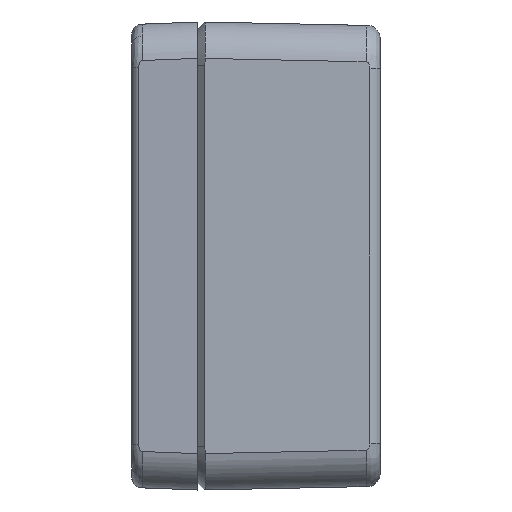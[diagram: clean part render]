
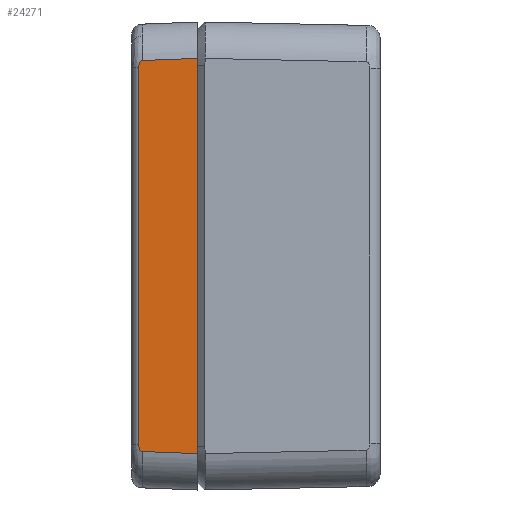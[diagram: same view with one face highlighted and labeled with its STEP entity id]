
A CAD part, left-side view. The second image highlights one B-rep face of the part: STEP entity #24271.
In plain terms, the highlighted planar face has unit normal (-0.999, 0.038, 0).
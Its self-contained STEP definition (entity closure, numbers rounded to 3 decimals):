
#96 = VERTEX_POINT ( 'NONE', #26281 ) ;
#109 = CARTESIAN_POINT ( 'NONE',  ( -48.7, 7.8, 26.599 ) ) ;
#260 = CARTESIAN_POINT ( 'NONE',  ( -48.709, 7.566, -26.735 ) ) ;
#409 = CARTESIAN_POINT ( 'NONE',  ( -48.7, 7.794, -26.606 ) ) ;
#445 = LINE ( 'NONE', #260, #10973 ) ;
#581 = CARTESIAN_POINT ( 'NONE',  ( -48.709, 7.566, -26.735 ) ) ;
#2452 = CARTESIAN_POINT ( 'NONE',  ( -49., 0., 0. ) ) ;
#2766 = CARTESIAN_POINT ( 'NONE',  ( -48.692, 8.023, -25.995 ) ) ;
#2795 = DIRECTION ( 'NONE',  ( -0.038, -0.999, -0.038 ) ) ;
#2811 = ORIENTED_EDGE ( 'NONE', *, *, #34739, .T. ) ;
#2982 = CARTESIAN_POINT ( 'NONE',  ( -48.692, 8.023, 0. ) ) ;
#2998 = CARTESIAN_POINT ( 'NONE',  ( -48.708, 7.609, 26.733 ) ) ;
#3068 = CARTESIAN_POINT ( 'NONE',  ( -49., 0., 27.026 ) ) ;
#3554 = ORIENTED_EDGE ( 'NONE', *, *, #26777, .F. ) ;
#4020 = ORIENTED_EDGE ( 'NONE', *, *, #25757, .F. ) ;
#4112 = VECTOR ( 'NONE', #4807, 1000. ) ;
#4242 = CARTESIAN_POINT ( 'NONE',  ( -48.863, 3.563, 26.889 ) ) ;
#4674 = EDGE_LOOP ( 'NONE', ( #26222, #13349, #34695, #3554, #2811, #4020 ) ) ;
#4745 = VECTOR ( 'NONE', #15235, 1000. ) ;
#4807 = DIRECTION ( 'NONE',  ( 0., 0., 1. ) ) ;
#5252 = VECTOR ( 'NONE', #13972, 1000. ) ;
#5263 = AXIS2_PLACEMENT_3D ( 'NONE', #33398, #17220, #8943 ) ;
#5292 = CARTESIAN_POINT ( 'NONE',  ( -48.696, 7.919, -26.389 ) ) ;
#5472 = CARTESIAN_POINT ( 'NONE',  ( -48.702, 7.758, -26.645 ) ) ;
#5528 = B_SPLINE_CURVE_WITH_KNOTS ( 'NONE', 3,
 ( #28183, #2998, #28017, #14524, #25493, #11299, #5704, #109, #30711, #33235, #24973, #28363, #25152, #19403, #22272, #8596, #8953, #30892 ),
 .UNSPECIFIED., .F., .F.,
 ( 4, 1, 1, 1, 2, 2, 1, 1, 1, 2, 2, 4 ),
 ( 0., 0.125, 0.188, 0.219, 0.234, 0.25, 0.375, 0.438, 0.469, 0.484, 0.5, 1. ),
 .UNSPECIFIED. ) ;
#5643 = CARTESIAN_POINT ( 'NONE',  ( -48.706, 7.65, -26.721 ) ) ;
#5704 = CARTESIAN_POINT ( 'NONE',  ( -48.701, 7.794, 26.606 ) ) ;
#7219 = VERTEX_POINT ( 'NONE', #15729 ) ;
#7665 = VERTEX_POINT ( 'NONE', #19268 ) ;
#8360 = CARTESIAN_POINT ( 'NONE',  ( -48.696, 7.902, -26.43 ) ) ;
#8596 = CARTESIAN_POINT ( 'NONE',  ( -48.693, 7.994, 26.181 ) ) ;
#8943 = DIRECTION ( 'NONE',  ( -0.038, -0.999, 0. ) ) ;
#8953 = CARTESIAN_POINT ( 'NONE',  ( -48.692, 8.023, 25.995 ) ) ;
#10746 = LINE ( 'NONE', #2452, #4112 ) ;
#10877 = CARTESIAN_POINT ( 'NONE',  ( -48.7, 7.8, -26.599 ) ) ;
#10973 = VECTOR ( 'NONE', #2795, 1000. ) ;
#11299 = CARTESIAN_POINT ( 'NONE',  ( -48.701, 7.785, 26.616 ) ) ;
#11587 = CARTESIAN_POINT ( 'NONE',  ( -48.698, 7.854, -26.525 ) ) ;
#13349 = ORIENTED_EDGE ( 'NONE', *, *, #19975, .T. ) ;
#13753 = CARTESIAN_POINT ( 'NONE',  ( -48.692, 8.023, -25.789 ) ) ;
#13972 = DIRECTION ( 'NONE',  ( 0., 0., 1. ) ) ;
#14524 = CARTESIAN_POINT ( 'NONE',  ( -48.703, 7.739, 26.664 ) ) ;
#15084 = CARTESIAN_POINT ( 'NONE',  ( -49., 0., -27.026 ) ) ;
#15235 = DIRECTION ( 'NONE',  ( -0.038, -0.999, 0.038 ) ) ;
#15729 = CARTESIAN_POINT ( 'NONE',  ( -48.692, 8.023, 25.789 ) ) ;
#16631 = CARTESIAN_POINT ( 'NONE',  ( -48.709, 7.566, -26.735 ) ) ;
#16805 = CARTESIAN_POINT ( 'NONE',  ( -48.701, 7.772, -26.632 ) ) ;
#17220 = DIRECTION ( 'NONE',  ( -0.999, 0.038, 0. ) ) ;
#17938 = LINE ( 'NONE', #4242, #4745 ) ;
#17958 = B_SPLINE_CURVE_WITH_KNOTS ( 'NONE', 3,
 ( #581, #19344, #5643, #22557, #22036, #5472, #16805, #29937, #409, #10877, #24569, #11587, #22384, #8360, #5292, #21855, #32996, #27957, #30293, #2766, #13753 ),
 .UNSPECIFIED., .F., .F.,
 ( 4, 2, 2, 1, 2, 2, 2, 1, 1, 2, 2, 4 ),
 ( 0., 0.125, 0.187, 0.219, 0.234, 0.25, 0.375, 0.437, 0.469, 0.484, 0.5, 1. ),
 .UNSPECIFIED. ) ;
#19268 = CARTESIAN_POINT ( 'NONE',  ( -48.692, 8.023, -25.789 ) ) ;
#19344 = CARTESIAN_POINT ( 'NONE',  ( -48.707, 7.609, -26.733 ) ) ;
#19403 = CARTESIAN_POINT ( 'NONE',  ( -48.695, 7.931, 26.358 ) ) ;
#19975 = EDGE_CURVE ( 'NONE', #24693, #20743, #445, .T. ) ;
#20743 = VERTEX_POINT ( 'NONE', #15084 ) ;
#20907 = EDGE_CURVE ( 'NONE', #20743, #21761, #10746, .T. ) ;
#21761 = VERTEX_POINT ( 'NONE', #3068 ) ;
#21855 = CARTESIAN_POINT ( 'NONE',  ( -48.695, 7.926, -26.37 ) ) ;
#22036 = CARTESIAN_POINT ( 'NONE',  ( -48.703, 7.729, -26.671 ) ) ;
#22085 = PLANE ( 'NONE',  #5263 ) ;
#22272 = CARTESIAN_POINT ( 'NONE',  ( -48.695, 7.934, 26.35 ) ) ;
#22384 = CARTESIAN_POINT ( 'NONE',  ( -48.697, 7.887, -26.463 ) ) ;
#22557 = CARTESIAN_POINT ( 'NONE',  ( -48.703, 7.71, -26.686 ) ) ;
#23510 = EDGE_CURVE ( 'NONE', #24693, #7665, #17958, .T. ) ;
#24271 = ADVANCED_FACE ( 'NONE', ( #27822 ), #22085, .T. ) ;
#24569 = CARTESIAN_POINT ( 'NONE',  ( -48.699, 7.83, -26.562 ) ) ;
#24693 = VERTEX_POINT ( 'NONE', #16631 ) ;
#24973 = CARTESIAN_POINT ( 'NONE',  ( -48.696, 7.902, 26.43 ) ) ;
#25152 = CARTESIAN_POINT ( 'NONE',  ( -48.695, 7.926, 26.37 ) ) ;
#25493 = CARTESIAN_POINT ( 'NONE',  ( -48.701, 7.771, 26.632 ) ) ;
#25757 = EDGE_CURVE ( 'NONE', #7665, #7219, #27633, .T. ) ;
#26222 = ORIENTED_EDGE ( 'NONE', *, *, #23510, .F. ) ;
#26281 = CARTESIAN_POINT ( 'NONE',  ( -48.709, 7.566, 26.735 ) ) ;
#26777 = EDGE_CURVE ( 'NONE', #96, #21761, #17938, .T. ) ;
#27633 = LINE ( 'NONE', #2982, #5252 ) ;
#27822 = FACE_OUTER_BOUND ( 'NONE', #4674, .T. ) ;
#27957 = CARTESIAN_POINT ( 'NONE',  ( -48.695, 7.933, -26.35 ) ) ;
#28017 = CARTESIAN_POINT ( 'NONE',  ( -48.705, 7.671, 26.715 ) ) ;
#28183 = CARTESIAN_POINT ( 'NONE',  ( -48.709, 7.566, 26.735 ) ) ;
#28363 = CARTESIAN_POINT ( 'NONE',  ( -48.696, 7.919, 26.388 ) ) ;
#29937 = CARTESIAN_POINT ( 'NONE',  ( -48.701, 7.785, -26.616 ) ) ;
#30293 = CARTESIAN_POINT ( 'NONE',  ( -48.693, 7.994, -26.18 ) ) ;
#30711 = CARTESIAN_POINT ( 'NONE',  ( -48.699, 7.83, 26.562 ) ) ;
#30892 = CARTESIAN_POINT ( 'NONE',  ( -48.692, 8.023, 25.789 ) ) ;
#32996 = CARTESIAN_POINT ( 'NONE',  ( -48.695, 7.931, -26.358 ) ) ;
#33235 = CARTESIAN_POINT ( 'NONE',  ( -48.698, 7.866, 26.507 ) ) ;
#33398 = CARTESIAN_POINT ( 'NONE',  ( -48.928, 1.88, 0. ) ) ;
#34695 = ORIENTED_EDGE ( 'NONE', *, *, #20907, .T. ) ;
#34739 = EDGE_CURVE ( 'NONE', #96, #7219, #5528, .T. ) ;
